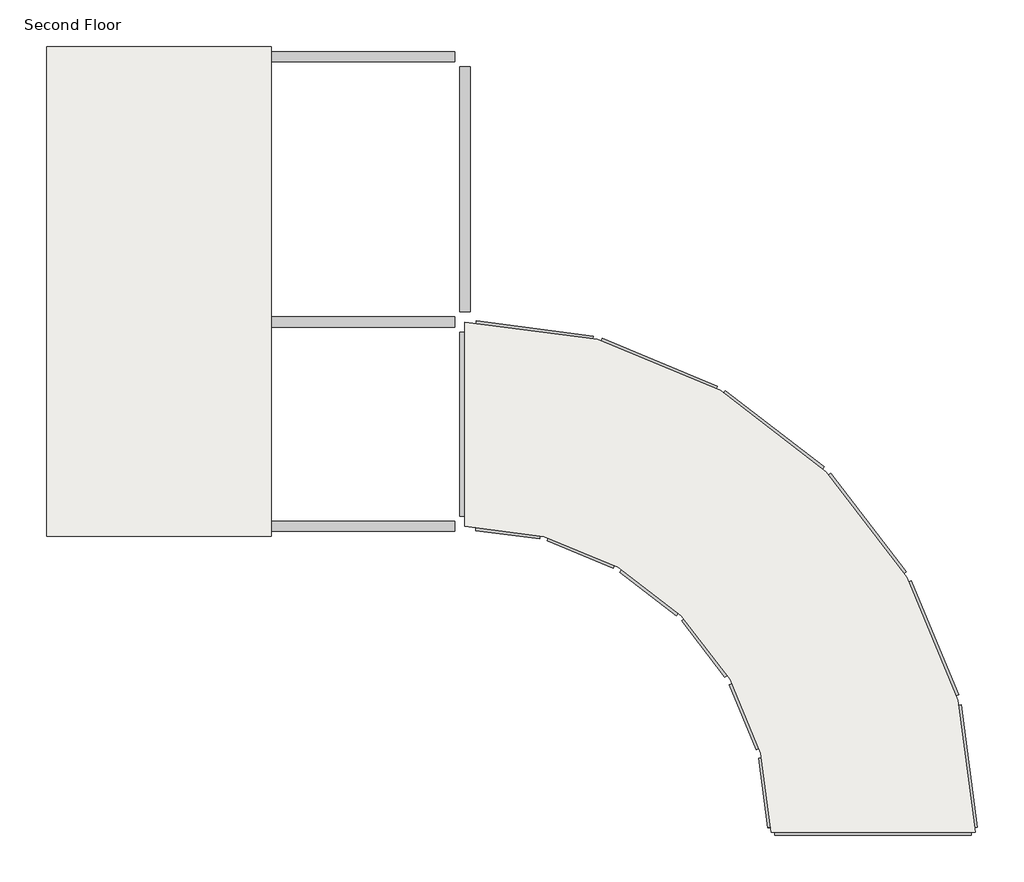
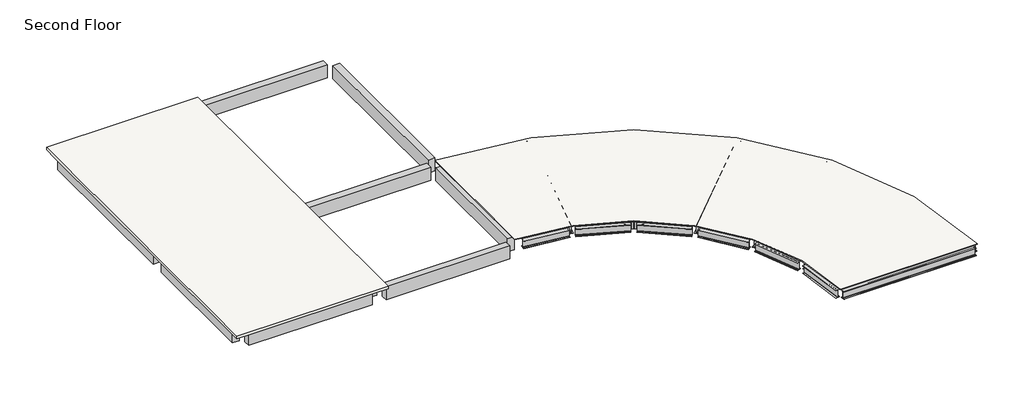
# One storey: 30 beams, 2 slabs.
"""IFC4 building model written with IfcOpenShell, lengths in millimetres."""

import ifcopenshell
import ifcopenshell.guid

model = None  # the IFC model being written
_history = None  # IfcOwnerHistory: only IFC2X3 demands one
_inside = {}  # id of a spatial element -> (the spatial element, [elements in it])
_under = {}  # id of a project, library or spatial element -> (it, [spatial elements below it])
_declared = {}  # id of a project -> (the project, [libraries it declares])
_typed = {}  # id of a type object -> (the type object, [elements of that type])
_made_of = {}  # id of a material, layer set ... -> (it, [elements and type objects made of it])


def new_model(schema):
    """Start an empty IFC model of exactly this schema.

    Asked for "IFC4X3", IfcOpenShell would pick the latest addendum, in which some entities
    have other attributes; the version numbers below select the first issue.
    IFC2X3 requires an IfcOwnerHistory on every rooted entity: one is made here for all.
    """
    global model, _history
    if schema == "IFC4X3":
        model = ifcopenshell.file(schema_version=(4, 3, 0, 0))
    else:
        model = ifcopenshell.file(schema=schema)
    _inside.clear()
    _under.clear()
    _declared.clear()
    _typed.clear()
    _made_of.clear()
    _history = None
    if model.schema == "IFC2X3":
        org = make("IfcOrganization", Name="unknown")
        user = make(
            "IfcPersonAndOrganization",
            ThePerson=make("IfcPerson", FamilyName="unknown"),
            TheOrganization=org,
        )
        app = make(
            "IfcApplication",
            ApplicationDeveloper=org,
            Version="unknown",
            ApplicationFullName="unknown",
            ApplicationIdentifier="unknown",
        )
        _history = make(
            "IfcOwnerHistory",
            OwningUser=user,
            OwningApplication=app,
            ChangeAction="ADDED",
            CreationDate=0,
        )
    return model


def make(cls, **values):
    """One entity of the class cls with the attributes given. An attribute that is None is left unset."""
    return model.create_entity(
        cls, **{name: value for name, value in values.items() if value is not None}
    )


def rooted(cls, **values):
    """An entity with a GlobalId (a new one), such as an element, a storey or a relation."""
    return make(cls, GlobalId=ifcopenshell.guid.new(), OwnerHistory=_history, **values)


def si_unit(unit_type, name, prefix=None):
    """IfcSIUnit, for example si_unit("LENGTHUNIT", "METRE", prefix="MILLI")."""
    return make("IfcSIUnit", UnitType=unit_type, Prefix=prefix, Name=name)


def assignment(units):
    """IfcUnitAssignment: the units of a project."""
    return None if units is None else make("IfcUnitAssignment", Units=units)


def point(xyz):
    """IfcCartesianPoint."""
    return None if xyz is None else make("IfcCartesianPoint", Coordinates=xyz)


def direction(xyz):
    """IfcDirection."""
    return None if xyz is None else make("IfcDirection", DirectionRatios=xyz)


def frame(location, z_axis=None, x_axis=None):
    """IfcAxis2Placement3D, a coordinate frame: its origin and axes. An axis left out is left unset."""
    return make(
        "IfcAxis2Placement3D",
        Location=point(location),
        Axis=direction(z_axis),
        RefDirection=direction(x_axis),
    )


def frame_2d(location, x_axis=None):
    """IfcAxis2Placement2D, a coordinate frame in the plane: its origin and x axis."""
    return make(
        "IfcAxis2Placement2D", Location=point(location), RefDirection=direction(x_axis)
    )


def origin():
    """The frame at (0, 0, 0) with its axes left unset."""
    return frame((0.0, 0.0, 0.0))


def place(relative_to, where):
    """IfcLocalPlacement: puts the frame where relative to a parent placement (None: the world)."""
    return make(
        "IfcLocalPlacement", PlacementRelTo=relative_to, RelativePlacement=where
    )


def context(
    kind, dimensions, precision=None, world=None, true_north=None, identifier=None
):
    """IfcGeometricRepresentationContext, for example the 3D "Model" context."""
    return make(
        "IfcGeometricRepresentationContext",
        ContextIdentifier=identifier,
        ContextType=kind,
        CoordinateSpaceDimension=dimensions,
        Precision=precision,
        WorldCoordinateSystem=world,
        TrueNorth=true_north,
    )


def project(units=None, contexts=None):
    """IfcProject with its units and contexts."""
    return rooted(
        "IfcProject",
        Name="project",
        RepresentationContexts=contexts,
        UnitsInContext=assignment(units),
    )


def spatial(cls, under=None, at=None, **own):
    """A site, building, storey or space (cls), placed at a placement, below another one or the project."""
    s = rooted(cls, ObjectPlacement=at, **own)
    if under is not None:
        _under.setdefault(under.id(), (under, []))[1].append(s)
    return s


def polyline(points):
    """IfcPolyline through the points."""
    return make("IfcPolyline", Points=[point(p) for p in points])


def circle_curve(where, radius):
    """IfcCircle in the frame where."""
    return make("IfcCircle", Position=where, Radius=radius)


def trimmed(basis, trim1, trim2, sense, master):
    """IfcTrimmedCurve: the piece of a basis curve between two trims."""
    return make(
        "IfcTrimmedCurve",
        BasisCurve=basis,
        Trim1=trim1,
        Trim2=trim2,
        SenseAgreement=sense,
        MasterRepresentation=master,
    )


def segment(curve, same_sense, transition):
    """IfcCompositeCurveSegment."""
    return make(
        "IfcCompositeCurveSegment",
        Transition=transition,
        SameSense=same_sense,
        ParentCurve=curve,
    )


def composite_curve(segments, self_intersect=None):
    """IfcCompositeCurve: segments joined end to end."""
    return make("IfcCompositeCurve", Segments=segments, SelfIntersect=self_intersect)


def outline(outer, holes=None, kind="AREA"):
    """IfcArbitraryClosedProfileDef: a profile drawn as a closed curve; with holes, ...WithVoids."""
    if holes is None:
        return make("IfcArbitraryClosedProfileDef", ProfileType=kind, OuterCurve=outer)
    return make(
        "IfcArbitraryProfileDefWithVoids",
        ProfileType=kind,
        OuterCurve=outer,
        InnerCurves=holes,
    )


def extrude(swept, where, along, depth):
    """IfcExtrudedAreaSolid: the profile swept, set in the frame where, extruded along a direction by depth."""
    return make(
        "IfcExtrudedAreaSolid",
        SweptArea=swept,
        Position=where,
        ExtrudedDirection=direction(along),
        Depth=depth,
    )


def faces_of(points, faces, orient=None, outer=None):
    """IfcFace entities. A face is a list of loops; a loop is a list of indices into points, from 0.

    orient and outer hold one flag for each loop. By default every Orientation is true, the
    first loop of a face is its IfcFaceOuterBound and the others are IfcFaceBound.
    """
    made = []
    for i, loops in enumerate(faces):
        bounds = []
        for j, loop in enumerate(loops):
            is_outer = j == 0 if outer is None else outer[i][j]
            bounds.append(
                make(
                    "IfcFaceOuterBound" if is_outer else "IfcFaceBound",
                    Bound=make("IfcPolyLoop", Polygon=[points[k] for k in loop]),
                    Orientation=True if orient is None else orient[i][j],
                )
            )
        made.append(make("IfcFace", Bounds=bounds))
    return made


def faceted_brep(points, faces, orient=None, outer=None, voids=None):
    """IfcFacetedBrep: a solid bounded by flat faces; with voids (closed shells), ...WithVoids."""
    shared = [point(p) for p in points]
    hull = make("IfcClosedShell", CfsFaces=faces_of(shared, faces, orient, outer))
    if voids is None:
        return make("IfcFacetedBrep", Outer=hull)
    return make(
        "IfcFacetedBrepWithVoids",
        Outer=hull,
        Voids=[
            make(cls, CfsFaces=faces_of(shared, fs, o, b)) for cls, fs, o, b in voids
        ],
    )


def shape(context_of_items, identifier, shape_type, items):
    """IfcShapeRepresentation: the items that make up one representation, for example the "Body"."""
    return make(
        "IfcShapeRepresentation",
        ContextOfItems=context_of_items,
        RepresentationIdentifier=identifier,
        RepresentationType=shape_type,
        Items=items,
    )


def source(mapping_origin, context_of_items, identifier, shape_type, items):
    """IfcRepresentationMap: a shape defined once, which mapped items show again and again."""
    return make(
        "IfcRepresentationMap",
        MappingOrigin=mapping_origin,
        MappedRepresentation=shape(context_of_items, identifier, shape_type, items),
    )


def transform(
    local_origin,
    x_axis=None,
    y_axis=None,
    z_axis=None,
    scale=None,
    scale2=None,
    scale3=None,
    uniform=True,
):
    """IfcCartesianTransformationOperator3D, or its non-uniform kind. x_axis, y_axis, z_axis: its Axis1, 2, 3."""
    if uniform:
        return make(
            "IfcCartesianTransformationOperator3D",
            Axis1=direction(x_axis),
            Axis2=direction(y_axis),
            LocalOrigin=point(local_origin),
            Scale=scale,
            Axis3=direction(z_axis),
        )
    return make(
        "IfcCartesianTransformationOperator3DnonUniform",
        Axis1=direction(x_axis),
        Axis2=direction(y_axis),
        LocalOrigin=point(local_origin),
        Scale=scale,
        Axis3=direction(z_axis),
        Scale2=scale2,
        Scale3=scale3,
    )


def mapped(mapping_source, mapping_target):
    """IfcMappedItem: shows the shape of a source again, moved by a transform."""
    return make(
        "IfcMappedItem", MappingSource=mapping_source, MappingTarget=mapping_target
    )


def made_of(thing, what):
    """Note that an element or type object is made of a material, layer set ...; save() writes the relation."""
    if what is not None:
        _made_of.setdefault(what.id(), (what, []))[1].append(thing)
    return thing


def element(
    cls,
    number,
    at=None,
    inside=None,
    cuts=None,
    type_object=None,
    material=None,
    context=None,
    identifier="Body",
    shape_type=None,
    held_by="IfcProductDefinitionShape",
    body=None,
    shapes=None,
    **own,
):
    """One element of the class cls, such as IfcWall. Its Tag is "e" and its number.

    at: its placement. inside: the storey or other place that contains it. cuts: it is an
    opening in that element (IfcRelVoidsElement). A single representation is given by context,
    identifier, shape_type and body (its items); several are given by shapes. held_by: the class
    of the entity that holds the representations. save() writes the other relations.
    """
    e = rooted(cls, Tag="e%d" % number, ObjectPlacement=at, **own)
    if body is not None:
        shapes = [shape(context, identifier, shape_type, body)]
    if shapes is not None:
        e.Representation = make(held_by, Representations=shapes)
    if inside is not None:
        _inside.setdefault(inside.id(), (inside, []))[1].append(e)
    if cuts is not None:
        rooted(
            "IfcRelVoidsElement", RelatingBuildingElement=cuts, RelatedOpeningElement=e
        )
    if type_object is not None:
        _typed.setdefault(type_object.id(), (type_object, []))[1].append(e)
    return made_of(e, material)


def aggregate(whole, parts):
    """IfcRelAggregates: a whole, such as a stair, and the parts it consists of."""
    return rooted("IfcRelAggregates", RelatingObject=whole, RelatedObjects=parts)


def save(model, path):
    """Write the relations noted so far, then the file.

    IfcRelAggregates (storeys below a building ...), IfcRelContainedInSpatialStructure (elements
    in a storey), IfcRelDefinesByType, IfcRelAssociatesMaterial and IfcRelDeclares: one each for
    every whole, place, type object, material and project.
    """
    for whole, parts in _under.values():
        aggregate(whole, parts)
    for where, things in _inside.values():
        rooted(
            "IfcRelContainedInSpatialStructure",
            RelatedElements=things,
            RelatingStructure=where,
        )
    for kind, things in _typed.values():
        rooted("IfcRelDefinesByType", RelatedObjects=things, RelatingType=kind)
    for what, things in _made_of.values():
        rooted("IfcRelAssociatesMaterial", RelatedObjects=things, RelatingMaterial=what)
    for by, libraries in _declared.values():
        rooted("IfcRelDeclares", RelatingContext=by, RelatedDefinitions=libraries)
    model.write(path)


def w_shapes_w14x30_e37d3bf5(model_context):
    return source(origin(), model_context, "Body", "SweptSolid", [
        extrude(outline(composite_curve([segment(polyline([(85.471, -165.481), (85.471, -175.26), (-85.471, -175.26), (-85.471, -165.481), (-13.589, -165.481)]), True, "CONTINUOUS"), segment(trimmed(circle_curve(frame_2d((-13.589, -155.321)), 10.16), [point((-13.589, -165.481))], [point((-3.429, -155.321))], True, "CARTESIAN"), True, "CONTINUOUS"), segment(polyline([(-3.429, -155.321), (-3.429, 155.321)]), True, "CONTINUOUS"), segment(trimmed(circle_curve(frame_2d((-13.589, 155.321)), 10.16), [point((-3.429, 155.321))], [point((-13.589, 165.481))], True, "CARTESIAN"), True, "CONTINUOUS"), segment(polyline([(-13.589, 165.481), (-85.471, 165.481), (-85.471, 175.26), (85.471, 175.26), (85.471, 165.481), (13.589, 165.481)]), True, "CONTINUOUS"), segment(trimmed(circle_curve(frame_2d((13.589, 155.321)), 10.16), [point((13.589, 165.481))], [point((3.429, 155.321))], True, "CARTESIAN"), True, "CONTINUOUS"), segment(polyline([(3.429, 155.321), (3.429, -155.321)]), True, "CONTINUOUS"), segment(trimmed(circle_curve(frame_2d((13.589, -155.321)), 10.16), [point((3.429, -155.321))], [point((13.589, -165.481))], True, "CARTESIAN"), True, "CONTINUOUS"), segment(polyline([(13.589, -165.481), (85.471, -165.481)]), True, "CONTINUOUS")], self_intersect=False)), frame((-862.1489239, 0.0, 0.0), z_axis=(1.0, 0.0, 0.0), x_axis=(0.0, 1.0, 0.0)), (0.0, 0.0, 1.0), 1929.763636),
    ])


def w_shapes_w14x30_b3bb4f38(model_context):
    return source(origin(), model_context, "Body", "SweptSolid", [
        extrude(outline(composite_curve([segment(polyline([(85.471, -165.481), (85.471, -175.26), (-85.471, -175.26), (-85.471, -165.481), (-13.589, -165.481)]), True, "CONTINUOUS"), segment(trimmed(circle_curve(frame_2d((-13.589, -155.321)), 10.16), [point((-13.589, -165.481))], [point((-3.429, -155.321))], True, "CARTESIAN"), True, "CONTINUOUS"), segment(polyline([(-3.429, -155.321), (-3.429, 155.321)]), True, "CONTINUOUS"), segment(trimmed(circle_curve(frame_2d((-13.589, 155.321)), 10.16), [point((-3.429, 155.321))], [point((-13.589, 165.481))], True, "CARTESIAN"), True, "CONTINUOUS"), segment(polyline([(-13.589, 165.481), (-85.471, 165.481), (-85.471, 175.26), (85.471, 175.26), (85.471, 165.481), (13.589, 165.481)]), True, "CONTINUOUS"), segment(trimmed(circle_curve(frame_2d((13.589, 155.321)), 10.16), [point((13.589, 165.481))], [point((3.429, 155.321))], True, "CARTESIAN"), True, "CONTINUOUS"), segment(polyline([(3.429, 155.321), (3.429, -155.321)]), True, "CONTINUOUS"), segment(trimmed(circle_curve(frame_2d((13.589, -155.321)), 10.16), [point((3.429, -155.321))], [point((13.589, -165.481))], True, "CARTESIAN"), True, "CONTINUOUS"), segment(polyline([(13.589, -165.481), (85.471, -165.481)]), True, "CONTINUOUS")], self_intersect=False)), frame((-1067.6147122, 0.0, 0.0), z_axis=(1.0, 0.0, 0.0), x_axis=(0.0, 1.0, 0.0)), (0.0, 0.0, 1.0), 2135.2294243),
    ])


def w_shapes_w14x30_cc53289b(model_context):
    return source(origin(), model_context, "Body", "SweptSolid", [
        extrude(outline(composite_curve([segment(polyline([(85.471, -165.481), (85.471, -175.26), (-85.471, -175.26), (-85.471, -165.481), (-13.589, -165.481)]), True, "CONTINUOUS"), segment(trimmed(circle_curve(frame_2d((-13.589, -155.321)), 10.16), [point((-13.589, -165.481))], [point((-3.429, -155.321))], True, "CARTESIAN"), True, "CONTINUOUS"), segment(polyline([(-3.429, -155.321), (-3.429, 155.321)]), True, "CONTINUOUS"), segment(trimmed(circle_curve(frame_2d((-13.589, 155.321)), 10.16), [point((-3.429, 155.321))], [point((-13.589, 165.481))], True, "CARTESIAN"), True, "CONTINUOUS"), segment(polyline([(-13.589, 165.481), (-85.471, 165.481), (-85.471, 175.26), (85.471, 175.26), (85.471, 165.481), (13.589, 165.481)]), True, "CONTINUOUS"), segment(trimmed(circle_curve(frame_2d((13.589, 155.321)), 10.16), [point((13.589, 165.481))], [point((3.429, 155.321))], True, "CARTESIAN"), True, "CONTINUOUS"), segment(polyline([(3.429, 155.321), (3.429, -155.321)]), True, "CONTINUOUS"), segment(trimmed(circle_curve(frame_2d((13.589, -155.321)), 10.16), [point((3.429, -155.321))], [point((13.589, -165.481))], True, "CARTESIAN"), True, "CONTINUOUS"), segment(polyline([(13.589, -165.481), (85.471, -165.481)]), True, "CONTINUOUS")], self_intersect=False)), frame((-1067.6147122, 0.0, 0.0), z_axis=(1.0, 0.0, 0.0), x_axis=(0.0, 1.0, 0.0)), (0.0, 0.0, 1.0), 2112.737227),
    ])


def w_shapes_w14x30_97968d29(model_context):
    return source(origin(), model_context, "Body", "SweptSolid", [
        extrude(outline(composite_curve([segment(polyline([(85.471, -165.481), (85.471, -175.26), (-85.471, -175.26), (-85.471, -165.481), (-13.589, -165.481)]), True, "CONTINUOUS"), segment(trimmed(circle_curve(frame_2d((-13.589, -155.321)), 10.16), [point((-13.589, -165.481))], [point((-3.429, -155.321))], True, "CARTESIAN"), True, "CONTINUOUS"), segment(polyline([(-3.429, -155.321), (-3.429, 155.321)]), True, "CONTINUOUS"), segment(trimmed(circle_curve(frame_2d((-13.589, 155.321)), 10.16), [point((-3.429, 155.321))], [point((-13.589, 165.481))], True, "CARTESIAN"), True, "CONTINUOUS"), segment(polyline([(-13.589, 165.481), (-85.471, 165.481), (-85.471, 175.26), (85.471, 175.26), (85.471, 165.481), (13.589, 165.481)]), True, "CONTINUOUS"), segment(trimmed(circle_curve(frame_2d((13.589, 155.321)), 10.16), [point((13.589, 165.481))], [point((3.429, 155.321))], True, "CARTESIAN"), True, "CONTINUOUS"), segment(polyline([(3.429, 155.321), (3.429, -155.321)]), True, "CONTINUOUS"), segment(trimmed(circle_curve(frame_2d((13.589, -155.321)), 10.16), [point((3.429, -155.321))], [point((13.589, -165.481))], True, "CARTESIAN"), True, "CONTINUOUS"), segment(polyline([(13.589, -165.481), (85.471, -165.481)]), True, "CONTINUOUS")], self_intersect=False)), frame((-1045.1225149, 0.0, 0.0), z_axis=(1.0, 0.0, 0.0), x_axis=(0.0, 1.0, 0.0)), (0.0, 0.0, 1.0), 2090.2450297),
    ])


def w_shapes_w14x30_4e72aeae(model_context):
    return source(origin(), model_context, "Body", "SweptSolid", [
        extrude(outline(composite_curve([segment(polyline([(85.471, -165.481), (85.471, -175.26), (-85.471, -175.26), (-85.471, -165.481), (-13.589, -165.481)]), True, "CONTINUOUS"), segment(trimmed(circle_curve(frame_2d((-13.589, -155.321)), 10.16), [point((-13.589, -165.481))], [point((-3.429, -155.321))], True, "CARTESIAN"), True, "CONTINUOUS"), segment(polyline([(-3.429, -155.321), (-3.429, 155.321)]), True, "CONTINUOUS"), segment(trimmed(circle_curve(frame_2d((-13.589, 155.321)), 10.16), [point((-3.429, 155.321))], [point((-13.589, 165.481))], True, "CARTESIAN"), True, "CONTINUOUS"), segment(polyline([(-13.589, 165.481), (-85.471, 165.481), (-85.471, 175.26), (85.471, 175.26), (85.471, 165.481), (13.589, 165.481)]), True, "CONTINUOUS"), segment(trimmed(circle_curve(frame_2d((13.589, 155.321)), 10.16), [point((13.589, 165.481))], [point((3.429, 155.321))], True, "CARTESIAN"), True, "CONTINUOUS"), segment(polyline([(3.429, 155.321), (3.429, -155.321)]), True, "CONTINUOUS"), segment(trimmed(circle_curve(frame_2d((13.589, -155.321)), 10.16), [point((3.429, -155.321))], [point((13.589, -165.481))], True, "CARTESIAN"), True, "CONTINUOUS"), segment(polyline([(13.589, -165.481), (85.471, -165.481)]), True, "CONTINUOUS")], self_intersect=False)), frame((-1657.8365916, 0.0, 0.0), z_axis=(1.0, 0.0, 0.0), x_axis=(0.0, 1.0, 0.0)), (0.0, 0.0, 1.0), 3521.1389716),
    ])


def w_shapes_w14x30_47131812(model_context):
    return source(origin(), model_context, "Body", "SweptSolid", [
        extrude(outline(composite_curve([segment(polyline([(85.471, -165.481), (85.471, -175.26), (-85.471, -175.26), (-85.471, -165.481), (-13.589, -165.481)]), True, "CONTINUOUS"), segment(trimmed(circle_curve(frame_2d((-13.589, -155.321)), 10.16), [point((-13.589, -165.481))], [point((-3.429, -155.321))], True, "CARTESIAN"), True, "CONTINUOUS"), segment(polyline([(-3.429, -155.321), (-3.429, 155.321)]), True, "CONTINUOUS"), segment(trimmed(circle_curve(frame_2d((-13.589, 155.321)), 10.16), [point((-3.429, 155.321))], [point((-13.589, 165.481))], True, "CARTESIAN"), True, "CONTINUOUS"), segment(polyline([(-13.589, 165.481), (-85.471, 165.481), (-85.471, 175.26), (85.471, 175.26), (85.471, 165.481), (13.589, 165.481)]), True, "CONTINUOUS"), segment(trimmed(circle_curve(frame_2d((13.589, 155.321)), 10.16), [point((13.589, 165.481))], [point((3.429, 155.321))], True, "CARTESIAN"), True, "CONTINUOUS"), segment(polyline([(3.429, 155.321), (3.429, -155.321)]), True, "CONTINUOUS"), segment(trimmed(circle_curve(frame_2d((13.589, -155.321)), 10.16), [point((3.429, -155.321))], [point((13.589, -165.481))], True, "CARTESIAN"), True, "CONTINUOUS"), segment(polyline([(13.589, -165.481), (85.471, -165.481)]), True, "CONTINUOUS")], self_intersect=False)), frame((-1863.3023799, 0.0, 0.0), z_axis=(1.0, 0.0, 0.0), x_axis=(0.0, 1.0, 0.0)), (0.0, 0.0, 1.0), 3726.6047599),
    ])


def w_shapes_w14x30_7a86089d(model_context):
    return source(origin(), model_context, "Body", "SweptSolid", [
        extrude(outline(composite_curve([segment(polyline([(85.471, -165.481), (85.471, -175.26), (-85.471, -175.26), (-85.471, -165.481), (-13.589, -165.481)]), True, "CONTINUOUS"), segment(trimmed(circle_curve(frame_2d((-13.589, -155.321)), 10.16), [point((-13.589, -165.481))], [point((-3.429, -155.321))], True, "CARTESIAN"), True, "CONTINUOUS"), segment(polyline([(-3.429, -155.321), (-3.429, 155.321)]), True, "CONTINUOUS"), segment(trimmed(circle_curve(frame_2d((-13.589, 155.321)), 10.16), [point((-3.429, 155.321))], [point((-13.589, 165.481))], True, "CARTESIAN"), True, "CONTINUOUS"), segment(polyline([(-13.589, 165.481), (-85.471, 165.481), (-85.471, 175.26), (85.471, 175.26), (85.471, 165.481), (13.589, 165.481)]), True, "CONTINUOUS"), segment(trimmed(circle_curve(frame_2d((13.589, 155.321)), 10.16), [point((13.589, 165.481))], [point((3.429, 155.321))], True, "CARTESIAN"), True, "CONTINUOUS"), segment(polyline([(3.429, 155.321), (3.429, -155.321)]), True, "CONTINUOUS"), segment(trimmed(circle_curve(frame_2d((13.589, -155.321)), 10.16), [point((3.429, -155.321))], [point((13.589, -165.481))], True, "CARTESIAN"), True, "CONTINUOUS"), segment(polyline([(13.589, -165.481), (85.471, -165.481)]), True, "CONTINUOUS")], self_intersect=False)), frame((-1863.3023799, 0.0, 0.0), z_axis=(1.0, 0.0, 0.0), x_axis=(0.0, 1.0, 0.0)), (0.0, 0.0, 1.0), 3704.1125626),
    ])


def w_shapes_w14x30_1e20ff68(model_context):
    return source(origin(), model_context, "Body", "SweptSolid", [
        extrude(outline(composite_curve([segment(polyline([(85.471, -165.481), (85.471, -175.26), (-85.471, -175.26), (-85.471, -165.481), (-13.589, -165.481)]), True, "CONTINUOUS"), segment(trimmed(circle_curve(frame_2d((-13.589, -155.321)), 10.16), [point((-13.589, -165.481))], [point((-3.429, -155.321))], True, "CARTESIAN"), True, "CONTINUOUS"), segment(polyline([(-3.429, -155.321), (-3.429, 155.321)]), True, "CONTINUOUS"), segment(trimmed(circle_curve(frame_2d((-13.589, 155.321)), 10.16), [point((-3.429, 155.321))], [point((-13.589, 165.481))], True, "CARTESIAN"), True, "CONTINUOUS"), segment(polyline([(-13.589, 165.481), (-85.471, 165.481), (-85.471, 175.26), (85.471, 175.26), (85.471, 165.481), (13.589, 165.481)]), True, "CONTINUOUS"), segment(trimmed(circle_curve(frame_2d((13.589, 155.321)), 10.16), [point((13.589, 165.481))], [point((3.429, 155.321))], True, "CARTESIAN"), True, "CONTINUOUS"), segment(polyline([(3.429, 155.321), (3.429, -155.321)]), True, "CONTINUOUS"), segment(trimmed(circle_curve(frame_2d((13.589, -155.321)), 10.16), [point((3.429, -155.321))], [point((13.589, -165.481))], True, "CARTESIAN"), True, "CONTINUOUS"), segment(polyline([(13.589, -165.481), (85.471, -165.481)]), True, "CONTINUOUS")], self_intersect=False)), frame((-1840.8101826, 0.0, 0.0), z_axis=(1.0, 0.0, 0.0), x_axis=(0.0, 1.0, 0.0)), (0.0, 0.0, 1.0), 3681.6203653),
    ])


def w_shapes_w14x30_fa3d23ee(model_context):
    return source(origin(), model_context, "Body", "SweptSolid", [
        extrude(outline(composite_curve([segment(polyline([(85.471, -165.481), (85.471, -175.26), (-85.471, -175.26), (-85.471, -165.481), (-13.589, -165.481)]), True, "CONTINUOUS"), segment(trimmed(circle_curve(frame_2d((-13.589, -155.321)), 10.16), [point((-13.589, -165.481))], [point((-3.429, -155.321))], True, "CARTESIAN"), True, "CONTINUOUS"), segment(polyline([(-3.429, -155.321), (-3.429, 155.321)]), True, "CONTINUOUS"), segment(trimmed(circle_curve(frame_2d((-13.589, 155.321)), 10.16), [point((-3.429, 155.321))], [point((-13.589, 165.481))], True, "CARTESIAN"), True, "CONTINUOUS"), segment(polyline([(-13.589, 165.481), (-85.471, 165.481), (-85.471, 175.26), (85.471, 175.26), (85.471, 165.481), (13.589, 165.481)]), True, "CONTINUOUS"), segment(trimmed(circle_curve(frame_2d((13.589, 155.321)), 10.16), [point((13.589, 165.481))], [point((3.429, 155.321))], True, "CARTESIAN"), True, "CONTINUOUS"), segment(polyline([(3.429, 155.321), (3.429, -155.321)]), True, "CONTINUOUS"), segment(trimmed(circle_curve(frame_2d((13.589, -155.321)), 10.16), [point((3.429, -155.321))], [point((13.589, -165.481))], True, "CARTESIAN"), True, "CONTINUOUS"), segment(polyline([(13.589, -165.481), (85.471, -165.481)]), True, "CONTINUOUS")], self_intersect=False)), frame((-2934.208, 0.0, 0.0), z_axis=(1.0, 0.0, 0.0), x_axis=(0.0, 1.0, 0.0)), (0.0, 0.0, 1.0), 5868.416),
    ])


def w_shapes_w14x30_4b075543(model_context):
    return source(origin(), model_context, "Body", "SweptSolid", [
        extrude(outline(composite_curve([segment(polyline([(85.471, -165.481), (85.471, -175.26), (-85.471, -175.26), (-85.471, -165.481), (-13.589, -165.481)]), True, "CONTINUOUS"), segment(trimmed(circle_curve(frame_2d((-13.589, -155.321)), 10.16), [point((-13.589, -165.481))], [point((-3.429, -155.321))], True, "CARTESIAN"), True, "CONTINUOUS"), segment(polyline([(-3.429, -155.321), (-3.429, 155.321)]), True, "CONTINUOUS"), segment(trimmed(circle_curve(frame_2d((-13.589, 155.321)), 10.16), [point((-3.429, 155.321))], [point((-13.589, 165.481))], True, "CARTESIAN"), True, "CONTINUOUS"), segment(polyline([(-13.589, 165.481), (-85.471, 165.481), (-85.471, 175.26), (85.471, 175.26), (85.471, 165.481), (13.589, 165.481)]), True, "CONTINUOUS"), segment(trimmed(circle_curve(frame_2d((13.589, 155.321)), 10.16), [point((13.589, 165.481))], [point((3.429, 155.321))], True, "CARTESIAN"), True, "CONTINUOUS"), segment(polyline([(3.429, 155.321), (3.429, -155.321)]), True, "CONTINUOUS"), segment(trimmed(circle_curve(frame_2d((13.589, -155.321)), 10.16), [point((3.429, -155.321))], [point((13.589, -165.481))], True, "CARTESIAN"), True, "CONTINUOUS"), segment(polyline([(13.589, -165.481), (85.471, -165.481)]), True, "CONTINUOUS")], self_intersect=False)), frame((-2911.729, 0.0, 0.0), z_axis=(1.0, 0.0, 0.0), x_axis=(0.0, 1.0, 0.0)), (0.0, 0.0, 1.0), 5823.458),
    ])


model = new_model("IFC4")

# Units and contexts
model_context = context("Model", 3, world=origin())
ifc_project = project(units=[si_unit("LENGTHUNIT", "METRE", prefix="MILLI")], contexts=[model_context])

# Site, building, storey
site = spatial("IfcSite", under=ifc_project)
building = spatial("IfcBuilding", under=site)
storey = spatial("IfcBuildingStorey", under=building, Name="Second Floor", Elevation=3048.0)

# Beams
placement = place(None, origin())
element("IfcBeam", 1, ObjectType="Concrete-Rectangular Beam : 12 x 24", at=placement, inside=storey, context=model_context, shape_type="SweptSolid", body=[
    extrude(outline(polyline([(-28941.182411, 12026.6448777), (-28941.182411, 11721.8448777), (-34427.582411, 11721.8448777), (-34427.582411, 12026.6448777), (-28941.182411, 12026.6448777)])), frame((0.0, 0.0, 2438.4), z_axis=(0.0, 0.0, 1.0), x_axis=(1.0, 0.0, 0.0)), (0.0, 0.0, 1.0), 609.6),
])
element("IfcBeam", 2, ObjectType="Concrete-Rectangular Beam : 12 x 24", at=placement, inside=storey, context=model_context, shape_type="SweptSolid", body=[
    extrude(outline(polyline([(-35037.182411, 12026.6448777), (-35037.182411, 11721.8448777), (-40523.582411, 11721.8448777), (-40523.582411, 12026.6448777), (-35037.182411, 12026.6448777)])), frame((0.0, 0.0, 2438.4), z_axis=(0.0, 0.0, 1.0), x_axis=(1.0, 0.0, 0.0)), (0.0, 0.0, 1.0), 609.6),
])
element("IfcBeam", 3, ObjectType="Concrete-Rectangular Beam : 12 x 24", at=placement, inside=storey, context=model_context, shape_type="SweptSolid", body=[
    extrude(outline(polyline([(-28941.182411, -1994.1551223), (-28941.182411, -2298.9551223), (-34427.582411, -2298.9551223), (-34427.582411, -1994.1551223), (-28941.182411, -1994.1551223)])), frame((0.0, 0.0, 2438.4), z_axis=(0.0, 0.0, 1.0), x_axis=(1.0, 0.0, 0.0)), (0.0, 0.0, 1.0), 609.6),
])
element("IfcBeam", 4, ObjectType="Concrete-Rectangular Beam : 12 x 24", at=placement, inside=storey, context=model_context, shape_type="SweptSolid", body=[
    extrude(outline(polyline([(-35037.182411, -1994.1551223), (-35037.182411, -2298.9551223), (-40523.582411, -2298.9551223), (-40523.582411, -1994.1551223), (-35037.182411, -1994.1551223)])), frame((0.0, 0.0, 2438.4), z_axis=(0.0, 0.0, 1.0), x_axis=(1.0, 0.0, 0.0)), (0.0, 0.0, 1.0), 609.6),
])
element("IfcBeam", 5, ObjectType="Concrete-Rectangular Beam : 12 x 24", at=placement, inside=storey, context=model_context, shape_type="SweptSolid", body=[
    extrude(outline(polyline([(-28941.182411, 4101.8448777), (-28941.182411, 3797.0448777), (-34427.582411, 3797.0448777), (-34427.582411, 4101.8448777), (-28941.182411, 4101.8448777)])), frame((0.0, 0.0, 2438.4), z_axis=(0.0, 0.0, 1.0), x_axis=(1.0, 0.0, 0.0)), (0.0, 0.0, 1.0), 609.6),
])
element("IfcBeam", 6, ObjectType="Concrete-Rectangular Beam : 12 x 24", at=placement, inside=storey, context=model_context, shape_type="SweptSolid", body=[
    extrude(outline(polyline([(-35037.182411, 4101.8448777), (-35037.182411, 3797.0448777), (-40523.582411, 3797.0448777), (-40523.582411, 4101.8448777), (-35037.182411, 4101.8448777)])), frame((0.0, 0.0, 2438.4), z_axis=(0.0, 0.0, 1.0), x_axis=(1.0, 0.0, 0.0)), (0.0, 0.0, 1.0), 609.6),
])
element("IfcBeam", 7, ObjectType="Concrete-Rectangular Beam : 12 x 24", at=placement, inside=storey, context=model_context, shape_type="SweptSolid", body=[
    extrude(outline(polyline([(-28483.982411, -1841.7551223), (-28788.782411, -1841.7551223), (-28788.782411, 3644.6448777), (-28483.982411, 3644.6448777), (-28483.982411, -1841.7551223)])), frame((0.0, 0.0, 2438.4), z_axis=(0.0, 0.0, 1.0), x_axis=(1.0, 0.0, 0.0)), (0.0, 0.0, 1.0), 609.6),
])
element("IfcBeam", 8, ObjectType="Concrete-Rectangular Beam : 12 x 24", at=placement, inside=storey, context=model_context, shape_type="SweptSolid", body=[
    extrude(outline(polyline([(-28483.982411, 4254.2448777), (-28788.782411, 4254.2448777), (-28788.782411, 11569.4448777), (-28483.982411, 11569.4448777), (-28483.982411, 4254.2448777)])), frame((0.0, 0.0, 2438.4), z_axis=(0.0, 0.0, 1.0), x_axis=(1.0, 0.0, 0.0)), (0.0, 0.0, 1.0), 609.6),
])
element("IfcBeam", 9, ObjectType="Concrete-Rectangular Beam : 12 x 24", at=placement, inside=storey, context=model_context, shape_type="SweptSolid", body=[
    extrude(outline(polyline([(-34579.982411, 4254.2448777), (-34884.782411, 4254.2448777), (-34884.782411, 11569.4448777), (-34579.982411, 11569.4448777), (-34579.982411, 4254.2448777)])), frame((0.0, 0.0, 2438.4), z_axis=(0.0, 0.0, 1.0), x_axis=(1.0, 0.0, 0.0)), (0.0, 0.0, 1.0), 609.6),
])
element("IfcBeam", 10, ObjectType="Concrete-Rectangular Beam : 12 x 24", at=placement, inside=storey, context=model_context, shape_type="SweptSolid", body=[
    extrude(outline(polyline([(-34579.982411, -1841.7551223), (-34884.782411, -1841.7551223), (-34884.782411, 3644.6448777), (-34579.982411, 3644.6448777), (-34579.982411, -1841.7551223)])), frame((0.0, 0.0, 2438.4), z_axis=(0.0, 0.0, 1.0), x_axis=(1.0, 0.0, 0.0)), (0.0, 0.0, 1.0), 609.6),
])
element("IfcBeam", 11, ObjectType="Concrete-Rectangular Beam : 12 x 24", at=placement, inside=storey, context=model_context, shape_type="SweptSolid", body=[
    extrude(outline(polyline([(-40675.982411, 4254.2448777), (-40980.782411, 4254.2448777), (-40980.782411, 11569.4448777), (-40675.982411, 11569.4448777), (-40675.982411, 4254.2448777)])), frame((0.0, 0.0, 2438.4), z_axis=(0.0, 0.0, 1.0), x_axis=(1.0, 0.0, 0.0)), (0.0, 0.0, 1.0), 609.6),
])
element("IfcBeam", 12, ObjectType="Concrete-Rectangular Beam : 12 x 24", at=placement, inside=storey, context=model_context, shape_type="SweptSolid", body=[
    extrude(outline(polyline([(-40675.982411, -1841.7551223), (-40980.782411, -1841.7551223), (-40980.782411, 3644.6448777), (-40675.982411, 3644.6448777), (-40675.982411, -1841.7551223)])), frame((0.0, 0.0, 2438.4), z_axis=(0.0, 0.0, 1.0), x_axis=(1.0, 0.0, 0.0)), (0.0, 0.0, 1.0), 609.6),
])
w_shapes_w14x30_shape = w_shapes_w14x30_e37d3bf5(model_context)
element("IfcBeam", 13, ObjectType="W Shapes : W14X30", at=placement, inside=storey, context=model_context, shape_type="MappedRepresentation", body=[
    mapped(w_shapes_w14x30_shape, transform((-27453.0617368, -2302.3422445, 2872.74), x_axis=(0.9914448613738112, -0.130526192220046, 0.0), y_axis=(0.130526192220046, 0.9914448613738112, 0.0), z_axis=(0.0, 0.0, 1.0))),
])
w_shapes_w14x30_2_shape = w_shapes_w14x30_b3bb4f38(model_context)
element("IfcBeam", 14, ObjectType="W Shapes : W14X30", at=placement, inside=storey, context=model_context, shape_type="MappedRepresentation", body=[
    mapped(w_shapes_w14x30_2_shape, transform((-25167.0617368, -2914.8740984, 2872.74), x_axis=(0.9238795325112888, -0.3826834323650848, 0.0), y_axis=(0.3826834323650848, 0.9238795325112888, 0.0), z_axis=(0.0, 0.0, 1.0))),
])
element("IfcBeam", 15, ObjectType="W Shapes : W14X30", at=placement, inside=storey, context=model_context, shape_type="MappedRepresentation", body=[
    mapped(w_shapes_w14x30_2_shape, transform((-23117.4902074, -4098.1947726, 2872.74), x_axis=(0.7933533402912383, -0.6087614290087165, 0.0), y_axis=(0.6087614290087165, 0.7933533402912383, 0.0), z_axis=(0.0, 0.0, 1.0))),
])
w_shapes_w14x30_3_shape = w_shapes_w14x30_cc53289b(model_context)
element("IfcBeam", 16, ObjectType="W Shapes : W14X30", at=placement, inside=storey, context=model_context, shape_type="MappedRepresentation", body=[
    mapped(w_shapes_w14x30_3_shape, transform((-21444.0220613, -5771.6629187, 2872.74), x_axis=(0.6087614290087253, -0.7933533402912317, 0.0), y_axis=(0.7933533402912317, 0.6087614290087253, 0.0), z_axis=(0.0, 0.0, 1.0))),
])
w_shapes_w14x30_4_shape = w_shapes_w14x30_97968d29(model_context)
element("IfcBeam", 17, ObjectType="W Shapes : W14X30", at=placement, inside=storey, context=model_context, shape_type="MappedRepresentation", body=[
    mapped(w_shapes_w14x30_4_shape, transform((-20260.7013871, -7821.2344481, 2872.74), x_axis=(0.38268343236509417, -0.923879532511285, 0.0), y_axis=(0.923879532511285, 0.38268343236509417, 0.0), z_axis=(0.0, 0.0, 1.0))),
])
element("IfcBeam", 18, ObjectType="W Shapes : W14X30", at=placement, inside=storey, context=model_context, shape_type="MappedRepresentation", body=[
    mapped(w_shapes_w14x30_4_shape, transform((-19648.1695332, -10107.2344481, 2872.74), x_axis=(0.13052619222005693, -0.9914448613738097, 0.0), y_axis=(0.9914448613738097, 0.13052619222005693, 0.0), z_axis=(0.0, 0.0, 1.0))),
])
w_shapes_w14x30_5_shape = w_shapes_w14x30_4e72aeae(model_context)
element("IfcBeam", 19, ObjectType="W Shapes : W14X30", at=placement, inside=storey, context=model_context, shape_type="MappedRepresentation", body=[
    mapped(w_shapes_w14x30_5_shape, transform((-26664.1812873, 3689.799674, 2872.74), x_axis=(0.991444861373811, -0.1305261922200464, 0.0), y_axis=(0.1305261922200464, 0.991444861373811, 0.0), z_axis=(0.0, 0.0, 1.0))),
])
w_shapes_w14x30_6_shape = w_shapes_w14x30_47131812(model_context)
element("IfcBeam", 20, ObjectType="W Shapes : W14X30", at=placement, inside=storey, context=model_context, shape_type="MappedRepresentation", body=[
    mapped(w_shapes_w14x30_6_shape, transform((-22854.1812873, 2668.9132509, 2872.74), x_axis=(0.923879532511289, -0.3826834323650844, 0.0), y_axis=(0.3826834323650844, 0.923879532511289, 0.0), z_axis=(0.0, 0.0, 1.0))),
])
element("IfcBeam", 21, ObjectType="W Shapes : W14X30", at=placement, inside=storey, context=model_context, shape_type="MappedRepresentation", body=[
    mapped(w_shapes_w14x30_6_shape, transform((-19438.2287383, 696.7121272, 2872.74), x_axis=(0.7933533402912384, -0.6087614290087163, 0.0), y_axis=(0.6087614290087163, 0.7933533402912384, 0.0), z_axis=(0.0, 0.0, 1.0))),
])
w_shapes_w14x30_7_shape = w_shapes_w14x30_7a86089d(model_context)
element("IfcBeam", 22, ObjectType="W Shapes : W14X30", at=placement, inside=storey, context=model_context, shape_type="MappedRepresentation", body=[
    mapped(w_shapes_w14x30_7_shape, transform((-16649.1151615, -2092.4014496, 2872.74), x_axis=(0.608761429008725, -0.7933533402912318, 0.0), y_axis=(0.7933533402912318, 0.608761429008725, 0.0), z_axis=(0.0, 0.0, 1.0))),
])
w_shapes_w14x30_8_shape = w_shapes_w14x30_1e20ff68(model_context)
element("IfcBeam", 23, ObjectType="W Shapes : W14X30", at=placement, inside=storey, context=model_context, shape_type="MappedRepresentation", body=[
    mapped(w_shapes_w14x30_8_shape, transform((-14676.9140378, -5508.3539986, 2872.74), x_axis=(0.38268343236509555, -0.9238795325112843, 0.0), y_axis=(0.9238795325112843, 0.38268343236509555, 0.0), z_axis=(0.0, 0.0, 1.0))),
])
element("IfcBeam", 24, ObjectType="W Shapes : W14X30", at=placement, inside=storey, context=model_context, shape_type="MappedRepresentation", body=[
    mapped(w_shapes_w14x30_8_shape, transform((-13656.0276147, -9318.3539986, 2872.74), x_axis=(0.13052619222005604, -0.9914448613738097, 0.0), y_axis=(0.9914448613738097, 0.13052619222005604, 0.0), z_axis=(0.0, 0.0, 1.0))),
])
w_shapes_w14x30_9_shape = w_shapes_w14x30_fa3d23ee(model_context)
element("IfcBeam", 25, ObjectType="W Shapes : W14X30", at=placement, inside=storey, context=model_context, shape_type="MappedRepresentation", body=[
    mapped(w_shapes_w14x30_9_shape, transform((-16444.382411, -11290.5551223, 2872.74), x_axis=(1.0, 0.0, 0.0), y_axis=(0.0, 1.0, 0.0), z_axis=(0.0, 0.0, 1.0))),
])
element("IfcBeam", 26, ObjectType="W Shapes : W14X30", at=placement, inside=storey, context=model_context, shape_type="MappedRepresentation", body=[
    mapped(w_shapes_w14x30_9_shape, transform((-16859.8147369, -8135.0333244, 2872.74), x_axis=(0.9659258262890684, 0.25881904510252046, 0.0), y_axis=(-0.25881904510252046, 0.9659258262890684, 0.0), z_axis=(0.0, 0.0, 1.0))),
])
element("IfcBeam", 27, ObjectType="W Shapes : W14X30", at=placement, inside=storey, context=model_context, shape_type="MappedRepresentation", body=[
    mapped(w_shapes_w14x30_9_shape, transform((-18077.800688, -5194.5551223, 2872.74), x_axis=(0.866025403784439, 0.4999999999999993, 0.0), y_axis=(-0.4999999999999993, 0.866025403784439, 0.0), z_axis=(0.0, 0.0, 1.0))),
])
w_shapes_w14x30_10_shape = w_shapes_w14x30_4b075543(model_context)
element("IfcBeam", 28, ObjectType="W Shapes : W14X30", at=placement, inside=storey, context=model_context, shape_type="MappedRepresentation", body=[
    mapped(w_shapes_w14x30_10_shape, transform((-20015.3365348, -2669.5092461, 2872.74), x_axis=(0.7071067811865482, 0.7071067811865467, 0.0), y_axis=(-0.7071067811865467, 0.7071067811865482, 0.0), z_axis=(0.0, 0.0, 1.0))),
])
element("IfcBeam", 29, ObjectType="W Shapes : W14X30", at=placement, inside=storey, context=model_context, shape_type="MappedRepresentation", body=[
    mapped(w_shapes_w14x30_10_shape, transform((-22540.382411, -731.9733993, 2872.74), x_axis=(0.5000000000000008, 0.8660254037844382, 0.0), y_axis=(-0.8660254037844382, 0.5000000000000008, 0.0), z_axis=(0.0, 0.0, 1.0))),
])
element("IfcBeam", 30, ObjectType="W Shapes : W14X30", at=placement, inside=storey, context=model_context, shape_type="MappedRepresentation", body=[
    mapped(w_shapes_w14x30_10_shape, transform((-25480.8606131, 486.0125518, 2872.74), x_axis=(0.25881904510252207, 0.9659258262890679, 0.0), y_axis=(-0.9659258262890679, 0.25881904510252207, 0.0), z_axis=(0.0, 0.0, 1.0))),
])

# Slabs
element("IfcSlab", 31, ObjectType="1 1/2\" Metal Roof Deck", at=placement, inside=storey, context=model_context, shape_type="SweptSolid", body=[
    extrude(outline(polyline([(-28636.382411, 3949.4448777), (-24691.9801636, 3430.1544704), (-21016.382411, 1907.6720314), (-17860.0750657, -514.247777), (-15438.1552573, -3670.5551223), (-13915.6728183, -7346.1528749), (-13396.382411, -11290.5551223), (-19492.382411, -11290.5551223), (-19803.9566554, -8923.9137739), (-20717.4461188, -6718.5551223), (-22170.5980038, -4824.7707151), (-24064.382411, -3371.6188301), (-26269.7410626, -2458.1293667), (-28636.382411, -2146.5551223), (-28636.382411, 3949.4448777)])), frame((0.0, 0.0, 3130.55), z_axis=(0.0, 0.0, 1.0), x_axis=(1.0, 0.0, 0.0)), (0.0, 0.0, 1.0), 38.1),
])
element("IfcSlab", 32, ObjectType="LW Concrete on Metal Deck", at=placement, inside=storey, context=model_context, shape_type="Brep", body=[
    faceted_brep([(-34427.582411, 12179.0448777, 3048.0), (-34427.582411, 11569.4448777, 3048.0), (-34427.582411, 4254.2448777, 3048.0), (-34427.582411, 3644.6448777, 3048.0), (-34427.582411, -1841.7551223, 3048.0), (-34427.582411, -2451.3551223, 3048.0), (-35037.182411, -2451.3551223, 3048.0), (-40523.582411, -2451.3551223, 3048.0), (-41133.182411, -2451.3551223, 3048.0), (-41133.182411, -1841.7551223, 3048.0), (-41133.182411, 3644.6448777, 3048.0), (-41133.182411, 4254.2448777, 3048.0), (-41133.182411, 11569.4448777, 3048.0), (-41133.182411, 12179.0448777, 3048.0), (-40523.582411, 12179.0448777, 3048.0), (-35037.182411, 12179.0448777, 3048.0), (-34427.582411, 12179.0448777, 3168.65), (-41133.182411, 12179.0448777, 3168.65), (-41133.182411, -2451.3551223, 3168.65), (-34427.582411, -2451.3551223, 3168.65)], [[[0, 1, 2, 3, 4, 5, 6, 7, 8, 9, 10, 11, 12, 13, 14, 15]], [[16, 17, 18, 19]], [[5, 4, 3, 2, 1, 0, 16, 19]], [[8, 7, 6, 5, 19, 18]], [[13, 12, 11, 10, 9, 8, 18, 17]], [[0, 15, 14, 13, 17, 16]]]),
])

save(model, "model.ifc")
